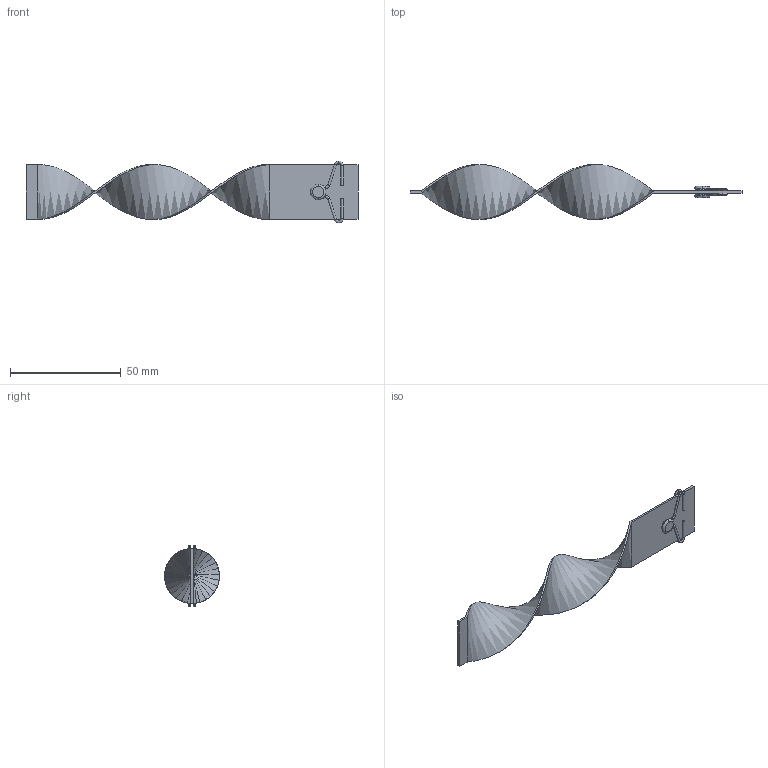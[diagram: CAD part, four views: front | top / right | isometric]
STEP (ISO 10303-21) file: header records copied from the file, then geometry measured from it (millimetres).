
FILE_DESCRIPTION (( 'STEP AP203' ), '1' );
FILE_NAME ('RLAS-25x150.STEP', '2016-02-12T07:20:29', ( 'Balzi' ), ( '' ), 'SwSTEP 2.0', 'SolidWorks 2015', '' );
FILE_SCHEMA (( 'CONFIG_CONTROL_DESIGN' ));
Length unit declared in the file: millimetre
Products named in the file (1): RLAS-25x150
Bounding box: 150 x 24.82 x 27.99 mm (x, y, z)
Volume: 3879.1 mm3; surface area: 8811.1 mm2
Topology: 5 solids, 5 shells, 92 faces, 178 edges, 96 vertices
Faces by surface type: torus 40, cylinder 30, plane 18, bspline 4
Entity records: 3183 total; most frequent: CARTESIAN_POINT 1187, DIRECTION 472, ORIENTED_EDGE 356, AXIS2_PLACEMENT_3D 209, EDGE_CURVE 178, CIRCLE 120, VERTEX_POINT 96, EDGE_LOOP 94
